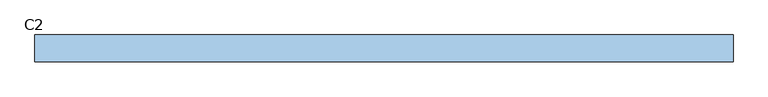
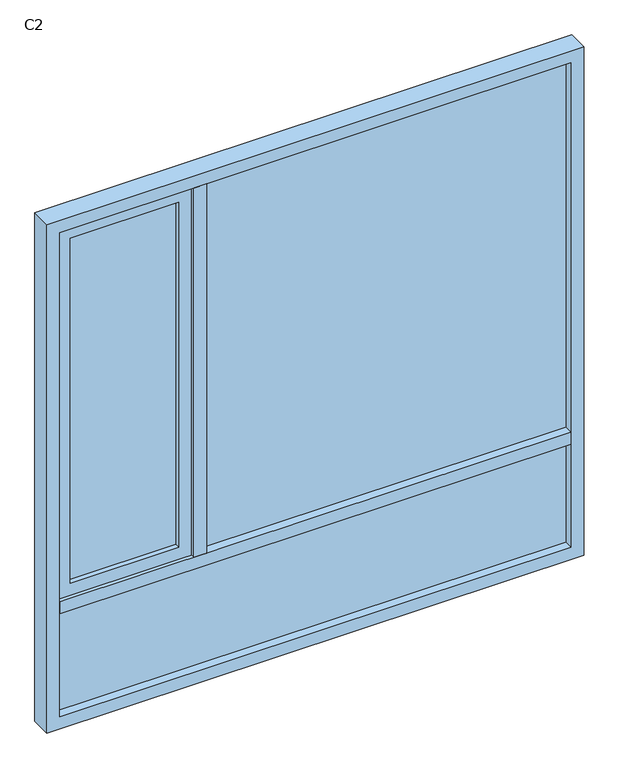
"""IFC4 building model written with IfcOpenShell, lengths in millimetres: window geometry, 组合窗 - 双层双列(平开+固定) - 下部单扇 : C2."""

from ifc_helpers import new_model, si_unit, frame, origin, place, context, project, spatial, polyline, outline, extrude, source, transform, mapped, element, save


def c2_05897f81(model_context):
    return source(origin(), model_context, "Body", "SweptSolid", [
        extrude(outline(polyline([(-525.0, 10.0), (-950.0, 10.0), (-950.0, 20.0), (-525.0, 20.0), (-525.0, 10.0)])), frame((0.0, 0.0, 1175.0), z_axis=(0.0, 0.0, 1.0), x_axis=(1.0, 0.0, 0.0)), (0.0, 0.0, 1.0), 1425.0),
        extrude(outline(polyline([(2650.0, -475.0), (2650.0, -1000.0), (1125.0, -1000.0), (1125.0, -475.0), (2650.0, -475.0)]), holes=[polyline([(1175.0, -525.0), (1175.0, -950.0), (2600.0, -950.0), (2600.0, -525.0), (1175.0, -525.0)])]), frame((0.0, -10.0, 0.0), z_axis=(0.0, 1.0, 0.0), x_axis=(0.0, 0.0, 1.0)), (0.0, 0.0, 1.0), 50.0),
        extrude(outline(polyline([(1000.0, 10.0), (-1000.0, 10.0), (-1000.0, 20.0), (1000.0, 20.0), (1000.0, 10.0)])), frame((0.0, 0.0, 650.0), z_axis=(0.0, 0.0, 1.0), x_axis=(1.0, 0.0, 0.0)), (0.0, 0.0, 1.0), 425.0),
        extrude(outline(polyline([(1000.0, 10.0), (-425.0, 10.0), (-425.0, 20.0), (1000.0, 20.0), (1000.0, 10.0)])), frame((0.0, 0.0, 1125.0), z_axis=(0.0, 0.0, 1.0), x_axis=(1.0, 0.0, 0.0)), (0.0, 0.0, 1.0), 1525.0),
        extrude(outline(polyline([(-475.0, 55.0), (-425.0, 55.0), (-425.0, -25.0), (-475.0, -25.0), (-475.0, 55.0)])), frame((0.0, 0.0, 1125.0), z_axis=(0.0, 0.0, 1.0), x_axis=(1.0, 0.0, 0.0)), (0.0, 0.0, 1.0), 1525.0),
        extrude(outline(polyline([(-1000.0, 55.0), (1000.0, 55.0), (1000.0, -25.0), (-1000.0, -25.0), (-1000.0, 55.0)])), frame((0.0, 0.0, 1075.0), z_axis=(0.0, 0.0, 1.0), x_axis=(1.0, 0.0, 0.0)), (0.0, 0.0, 1.0), 50.0),
        extrude(outline(polyline([(2700.0, -1050.0), (600.0, -1050.0), (600.0, 1050.0), (2700.0, 1050.0), (2700.0, -1050.0)]), holes=[polyline([(2650.0, 1000.0), (650.0, 1000.0), (650.0, -1000.0), (2650.0, -1000.0), (2650.0, 1000.0)])]), frame((0.0, -25.0, 0.0), z_axis=(0.0, 1.0, 0.0), x_axis=(0.0, 0.0, 1.0)), (0.0, 0.0, 1.0), 80.0),
    ])


if __name__ == "__main__":
    model = new_model("IFC4")
    model_context = context("Model", 3, world=origin())
    ifc_project = project(units=[si_unit("LENGTHUNIT", "METRE", prefix="MILLI")], contexts=[model_context])
    site = spatial("IfcSite", under=ifc_project)
    building = spatial("IfcBuilding", under=site)
    placement = place(None, origin())
    c2_shape = c2_05897f81(model_context)
    element("IfcWindow", 1, ObjectType="组合窗 - 双层双列(平开+固定) - 下部单扇 : C2", at=placement, inside=building, context=model_context, shape_type="MappedRepresentation", body=[
        mapped(c2_shape, transform((0.0, 0.0, 0.0), x_axis=(1.0, 0.0, 0.0), y_axis=(0.0, 1.0, 0.0), z_axis=(0.0, 0.0, 1.0))),
    ])
    save(model, "model.ifc")
